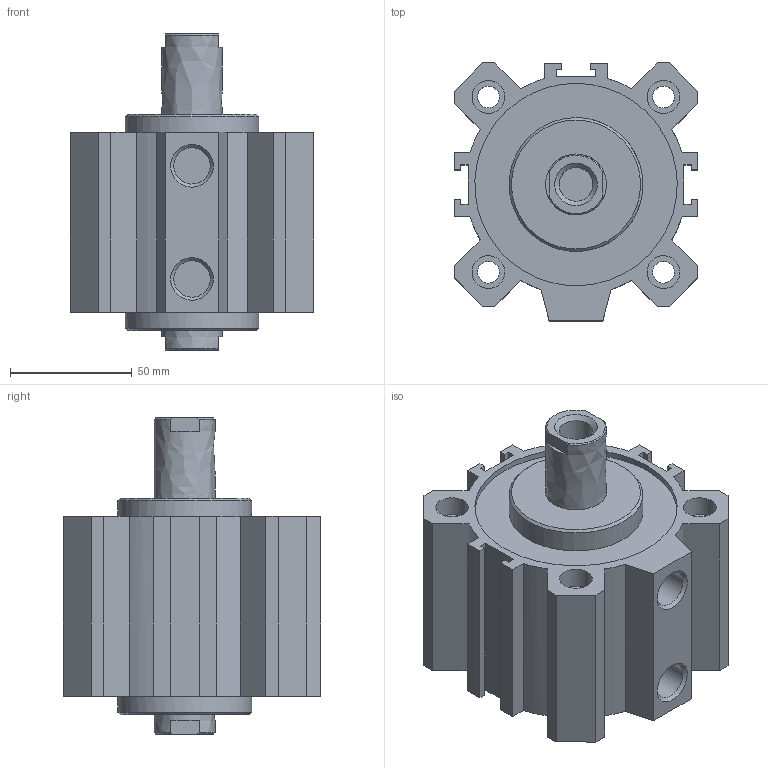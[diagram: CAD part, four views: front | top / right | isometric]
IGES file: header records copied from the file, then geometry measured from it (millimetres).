
Global section: file name: 1514_80_0025; native system: Autodesk Inventor 2014; preprocessor: unknown; author: A. Manieri; date: 20160824.142336; units: millimetre
Bounding box: 100 x 106 x 130 mm (x, y, z)
Volume: 523176.9 mm3; surface area: 117856.6 mm2
Topology: 2 solids, 2 shells, 132 faces, 346 edges, 238 vertices
Faces by surface type: bspline 132
